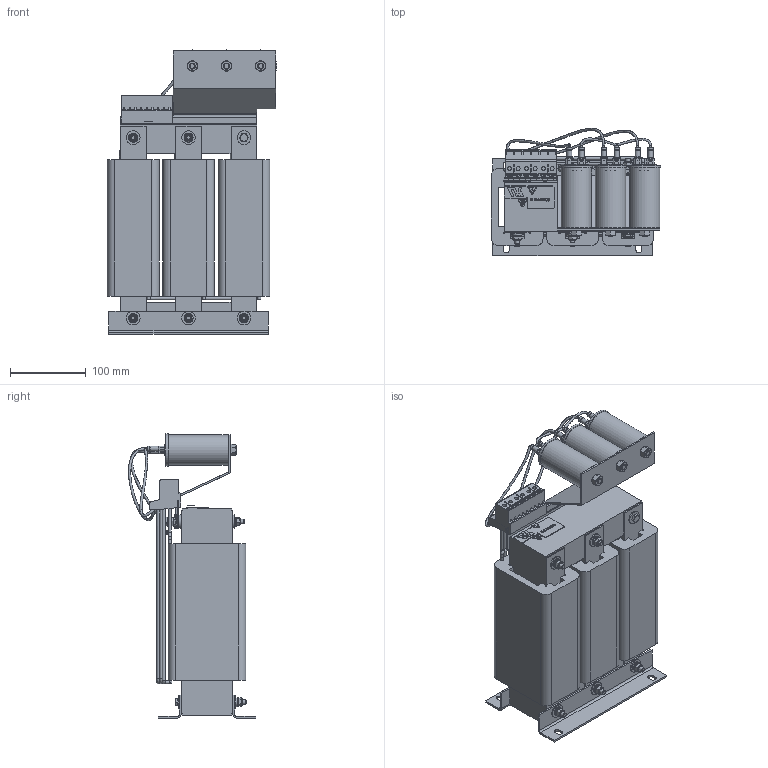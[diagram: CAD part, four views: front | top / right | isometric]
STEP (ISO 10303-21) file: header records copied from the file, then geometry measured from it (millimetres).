
FILE_DESCRIPTION(/* description */ ('raw material description'),/* implementation_level */ '2;1');
FILE_NAME(/* name */ 'C:\Users\Oliver.Volic\Desktop\FN5040HV-28-84.stp',/* time_stamp */ '2020-02-17T10:02:07+01:00',/* author */ ('Oliver.Volic'),/* organization */ ('Schaffner EMV AG'),/* preprocessor_version */ 'ST-DEVELOPER v16.5',/* originating_system */ 'Autodesk Inventor 2017',/* authorisation */ '');
FILE_SCHEMA (('CONFIG_CONTROL_DESIGN'));
Products named in the file (1): FN5040HV-28-84
Bounding box: 223.42 x 167.57 x 374.62 mm (x, y, z)
Volume: 46382.4 mm3; surface area: 694482.5 mm2
Topology: 22 solids, 29 shells, 1996 faces, 5208 edges, 3373 vertices
Faces by surface type: plane 1296, cylinder 447, bspline 122, cone 113, torus 18
Full cylindrical faces by diameter (mm): 0.8 x11, 2.5 x6, 2.8 x6, 3 x12, 4 x34, 4.049 x3, 4.8 x6, 5 x6, 5.459 x6, 5.5 x6, 5.623 x1, 6 x15, 6.4 x19, 6.8 x6, 7.5 x6, 8 x6, 8.2 x5, 8.4 x3, 8.5 x6, 8.7 x6, 9 x8, 12 x6, 12.5 x6, 14.5 x6, 18 x15, 40 x6, 42.5 x3
Entity records: 77237 total; most frequent: CARTESIAN_POINT 27958, ORIENTED_EDGE 9680, DIRECTION 9346, EDGE_CURVE 4818, VERTEX_POINT 3263, LINE 3122, VECTOR 3122, AXIS2_PLACEMENT_3D 3112
